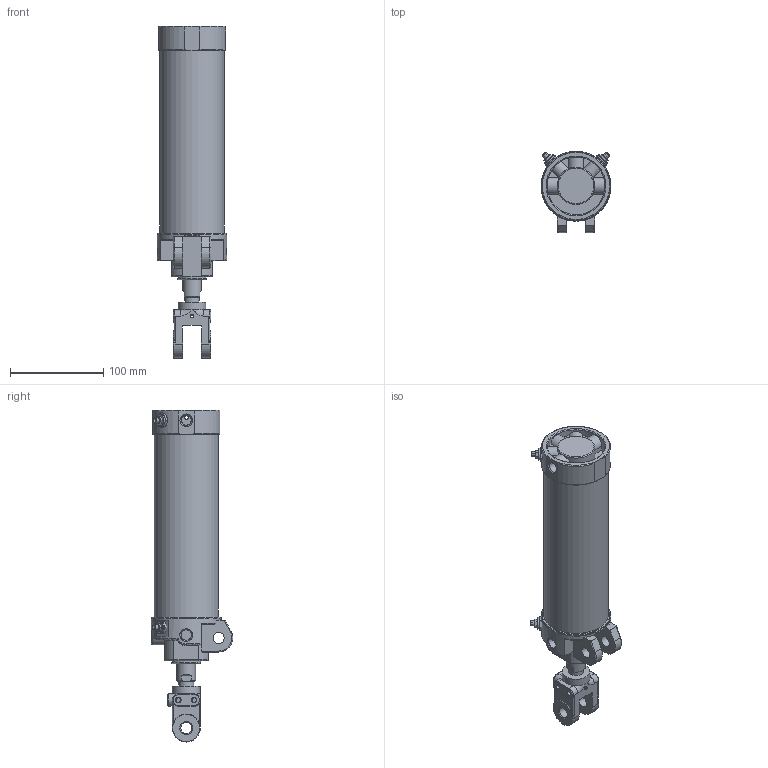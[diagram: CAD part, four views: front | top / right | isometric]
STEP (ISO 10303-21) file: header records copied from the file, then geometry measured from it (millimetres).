
FILE_DESCRIPTION((''),'2;1');
FILE_NAME('I:\3D電子目錄\氣缸\DCK\DCK\DCK-1B-63x150-Y.stp','2008-02-26T15:40:23',('Administrator'),(''),'Autodesk Inventor 11','Autodesk Inventor 11','');
FILE_SCHEMA(('AUTOMOTIVE_DESIGN { 1 0 10303 214 1 1 1 1 }'));
Length unit declared in the file: millimetre
Products named in the file (6): DCK-1B-63-Y; 緩衝針; 緩衝針-1; 緩衝針-201; 緩衝針-3
Assembly tree (8 placements, depth 3):
  DCK-1B-63-Y
    DCK-1B-63-Y
    緩衝針  x4
      緩衝針-1
      緩衝針-201
      緩衝針-3
Bounding box: 75 x 87.29 x 356 mm (x, y, z)
Volume: 395723.6 mm3; surface area: 167561.5 mm2
Topology: 16 solids, 16 shells, 672 faces, 1499 edges, 931 vertices
Faces by surface type: plane 246, cylinder 189, cone 143, torus 48, bspline 46
Full cylindrical faces by diameter (mm): 2 x1, 3 x2, 3.8 x2, 4 x6, 4.6 x4, 4.917 x2, 5 x8, 5.1 x4, 5.2 x12, 5.5 x4, 7 x1, 7.25 x1, 7.9 x4, 8 x2, 11.3 x3, 12 x4, 12.8 x4, 16 x3, 20 x1, 21 x1, 22 x2, 23 x1, 24.7 x1, 26 x1, 27 x1, 28 x1, 29 x1, 30 x3, 31 x1, 33 x1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
Entity records: 15194 total; most frequent: CARTESIAN_POINT 6261, DIRECTION 1812, ORIENTED_EDGE 1648, EDGE_CURVE 824, AXIS2_PLACEMENT_3D 775, EDGE_LOOP 630, VERTEX_POINT 590, FACE_OUTER_BOUND 423
